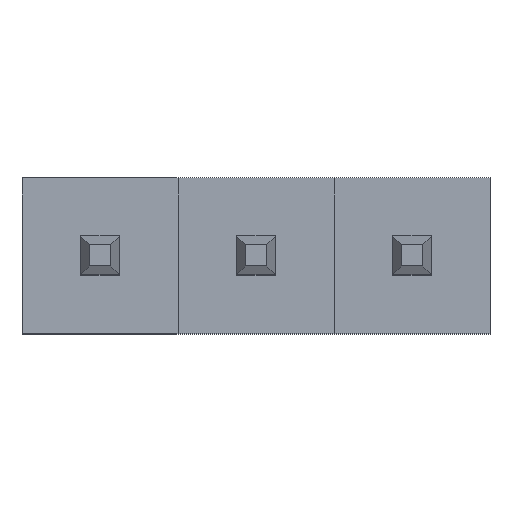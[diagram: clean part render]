
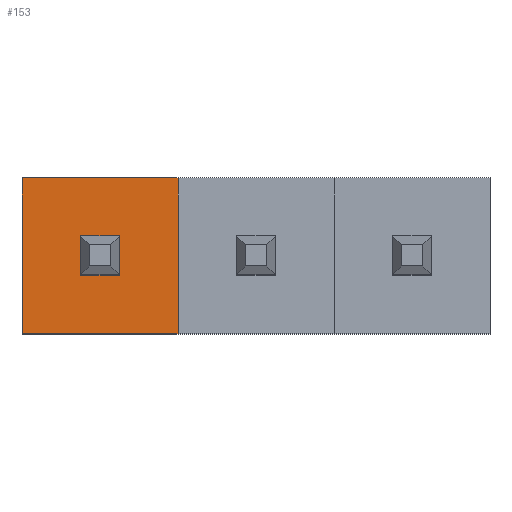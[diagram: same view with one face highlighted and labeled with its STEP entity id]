
A CAD part, top view. The second image highlights one B-rep face of the part: STEP entity #153.
In plain terms, the highlighted planar face has unit normal (0, 0, 1).
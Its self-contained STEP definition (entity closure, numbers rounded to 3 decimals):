
#20 = CARTESIAN_POINT('',(-3.81,-1.27,2.));
#21 = VERTEX_POINT('',#20);
#22 = CARTESIAN_POINT('',(-3.81,1.27,2.));
#23 = VERTEX_POINT('',#22);
#31 = DIRECTION('',(0.,1.,0.));
#32 = VECTOR('',#31,1.);
#33 = LINE('',#20,#32);
#34 = EDGE_CURVE('',#21,#23,#33,.T.);
#58 = CARTESIAN_POINT('',(-1.27,1.27,2.));
#59 = VERTEX_POINT('',#58);
#60 = CARTESIAN_POINT('',(-1.27,-1.27,2.));
#61 = VERTEX_POINT('',#60);
#72 = DIRECTION('',(0.,1.,0.));
#73 = VECTOR('',#72,1.);
#74 = LINE('',#60,#73);
#75 = EDGE_CURVE('',#61,#59,#74,.T.);
#96 = DIRECTION('',(-1.,0.,0.));
#97 = VECTOR('',#96,1.);
#98 = LINE('',#60,#97);
#99 = EDGE_CURVE('',#61,#21,#98,.T.);
#111 = DIRECTION('',(-1.,0.,0.));
#112 = VECTOR('',#111,1.);
#113 = LINE('',#58,#112);
#114 = EDGE_CURVE('',#59,#23,#113,.T.);
#142 = ORIENTED_EDGE('',*,*,#99,.F.);
#143 = ORIENTED_EDGE('',*,*,#75,.T.);
#144 = ORIENTED_EDGE('',*,*,#114,.T.);
#145 = ORIENTED_EDGE('',*,*,#34,.F.);
#146 = CARTESIAN_POINT('',(-3.81,-1.27,2.));
#147 = DIRECTION('',(0.,0.,1.));
#148 = DIRECTION('',(1.,0.,0.));
#149 = AXIS2_PLACEMENT_3D('',#146,#147,#148);
#150 = PLANE('',#149);
#151 = EDGE_LOOP('',(#142,#143,#144,#145));
#152 = FACE_OUTER_BOUND('',#151,.T.);
#153 = ADVANCED_FACE('',(#152),#150,.T.);
